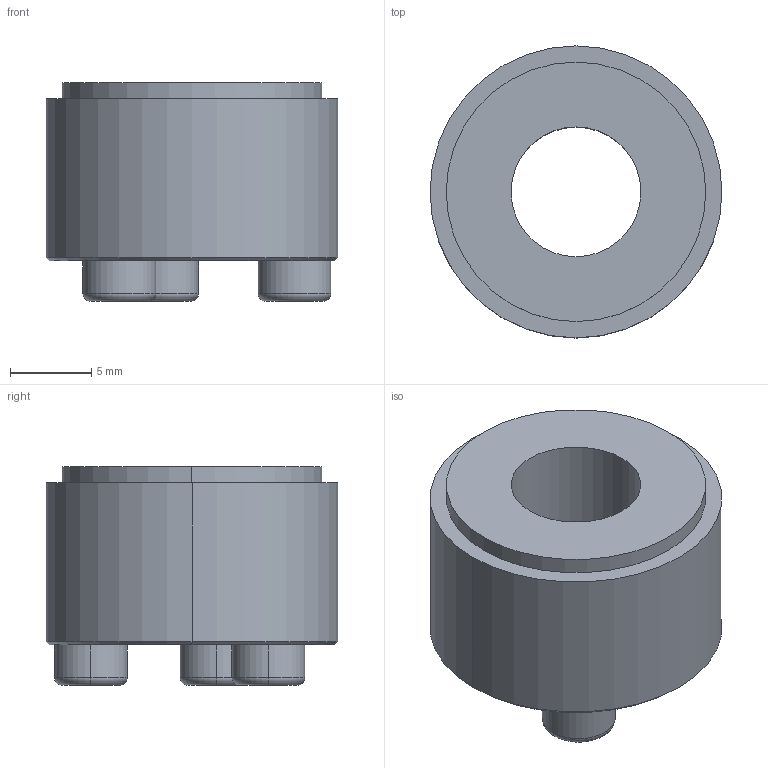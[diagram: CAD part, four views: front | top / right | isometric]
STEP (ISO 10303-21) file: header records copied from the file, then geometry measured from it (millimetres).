
FILE_DESCRIPTION (( 'STEP AP203' ), '1' );
FILE_NAME ('PL-B 8-18.STEP', '2021-10-22T07:44:21', ( '' ), ( '' ), 'SwSTEP 2.0', 'SolidWorks 2018', '' );
FILE_SCHEMA (( 'CONFIG_CONTROL_DESIGN' ));
Length unit declared in the file: millimetre
Products named in the file (1): PL-B 8-18
Bounding box: 18 x 18 x 13.5 mm (x, y, z)
Volume: 2296.9 mm3; surface area: 1410.5 mm2
Topology: 1 solids, 1 shells, 49 faces, 110 edges, 70 vertices
Faces by surface type: plane 27, cylinder 12, torus 6, cone 4
Entity records: 1445 total; most frequent: DIRECTION 250, CARTESIAN_POINT 230, ORIENTED_EDGE 220, EDGE_CURVE 110, AXIS2_PLACEMENT_3D 90, VERTEX_POINT 70, VECTOR 70, LINE 70
